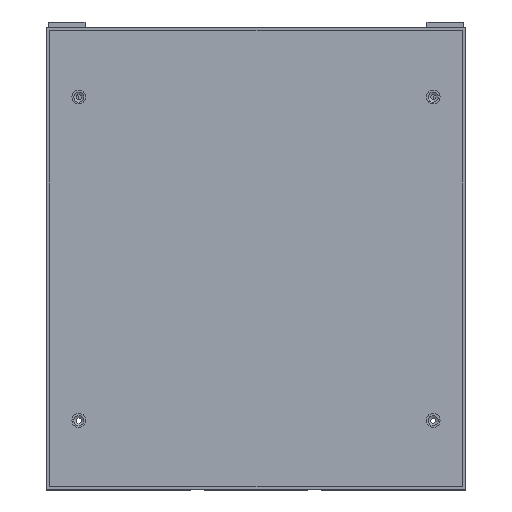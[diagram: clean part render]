
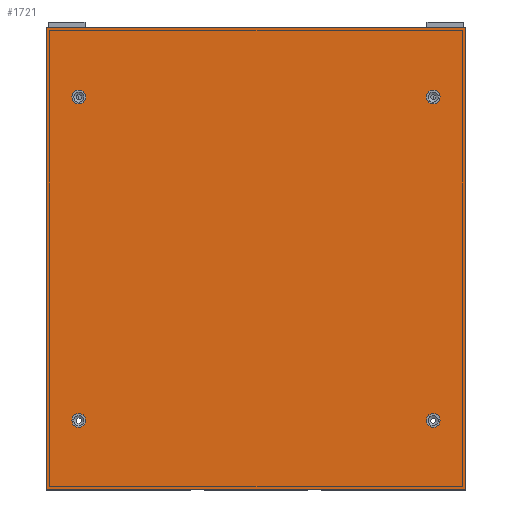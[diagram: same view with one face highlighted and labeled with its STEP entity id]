
A CAD part, top view. The second image highlights one B-rep face of the part: STEP entity #1721.
In plain terms, the highlighted planar face has unit normal (0, 0, 1).
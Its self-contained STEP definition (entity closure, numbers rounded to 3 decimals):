
#1721=ADVANCED_FACE('',(#2962,#2963,#2964,#2965,#2966),#2537,.F.);
#2537=PLANE('',#17333);
#2962=FACE_BOUND('',#3840,.T.);
#2963=FACE_BOUND('',#3841,.T.);
#2964=FACE_BOUND('',#3842,.T.);
#2965=FACE_BOUND('',#3843,.T.);
#2966=FACE_BOUND('',#3844,.T.);
#3840=EDGE_LOOP('',(#7067));
#3841=EDGE_LOOP('',(#7068));
#3842=EDGE_LOOP('',(#7069));
#3843=EDGE_LOOP('',(#7070));
#3844=EDGE_LOOP('',(#7071,#7072,#7073,#7074));
#5188=CIRCLE('',#17329,2.25);
#5189=CIRCLE('',#17330,2.25);
#5190=CIRCLE('',#17331,2.25);
#5191=CIRCLE('',#17332,2.25);
#7067=ORIENTED_EDGE('',*,*,#12974,.F.);
#7068=ORIENTED_EDGE('',*,*,#12975,.F.);
#7069=ORIENTED_EDGE('',*,*,#12976,.F.);
#7070=ORIENTED_EDGE('',*,*,#12977,.F.);
#7071=ORIENTED_EDGE('',*,*,#12649,.F.);
#7072=ORIENTED_EDGE('',*,*,#12978,.F.);
#7073=ORIENTED_EDGE('',*,*,#12568,.F.);
#7074=ORIENTED_EDGE('',*,*,#12979,.F.);
#10850=VERTEX_POINT('',#25507);
#10851=VERTEX_POINT('',#25509);
#10902=VERTEX_POINT('',#25659);
#10903=VERTEX_POINT('',#25661);
#11113=VERTEX_POINT('',#26319);
#11114=VERTEX_POINT('',#26321);
#11115=VERTEX_POINT('',#26323);
#11116=VERTEX_POINT('',#26325);
#12568=EDGE_CURVE('',#10850,#10851,#14633,.T.);
#12649=EDGE_CURVE('',#10902,#10903,#14696,.T.);
#12974=EDGE_CURVE('',#11113,#11113,#5188,.T.);
#12975=EDGE_CURVE('',#11114,#11114,#5189,.T.);
#12976=EDGE_CURVE('',#11115,#11115,#5190,.T.);
#12977=EDGE_CURVE('',#11116,#11116,#5191,.T.);
#12978=EDGE_CURVE('',#10851,#10902,#14898,.T.);
#12979=EDGE_CURVE('',#10903,#10850,#14899,.T.);
#14633=LINE('',#25508,#15829);
#14696=LINE('',#25660,#15892);
#14898=LINE('',#26326,#16094);
#14899=LINE('',#26327,#16095);
#15829=VECTOR('',#19388,1.);
#15892=VECTOR('',#19525,1.);
#16094=VECTOR('',#20227,1.);
#16095=VECTOR('',#20228,1.);
#17329=AXIS2_PLACEMENT_3D('',#26318,#20219,#20220);
#17330=AXIS2_PLACEMENT_3D('',#26320,#20221,#20222);
#17331=AXIS2_PLACEMENT_3D('',#26322,#20223,#20224);
#17332=AXIS2_PLACEMENT_3D('',#26324,#20225,#20226);
#17333=AXIS2_PLACEMENT_3D('',#26328,#20229,#20230);
#19388=DIRECTION('',(0.,1.,0.));
#19525=DIRECTION('',(0.,-1.,0.));
#20219=DIRECTION('',(0.,0.,1.));
#20220=DIRECTION('',(-1.,0.,0.));
#20221=DIRECTION('',(0.,0.,1.));
#20222=DIRECTION('',(1.,0.,0.));
#20223=DIRECTION('',(0.,0.,1.));
#20224=DIRECTION('',(-1.,0.,0.));
#20225=DIRECTION('',(0.,0.,1.));
#20226=DIRECTION('',(1.,0.,0.));
#20227=DIRECTION('',(1.,0.,0.));
#20228=DIRECTION('',(-1.,0.,0.));
#20229=DIRECTION('',(0.,0.,-1.));
#20230=DIRECTION('',(1.,0.,0.));
#25507=CARTESIAN_POINT('',(-68.,-78.,193.));
#25508=CARTESIAN_POINT('',(-68.,72.,193.));
#25509=CARTESIAN_POINT('',(-68.,72.,193.));
#25659=CARTESIAN_POINT('',(68.,72.,193.));
#25660=CARTESIAN_POINT('',(68.,72.,193.));
#25661=CARTESIAN_POINT('',(68.,-78.,193.));
#26318=CARTESIAN_POINT('',(-57.5,-55.5,193.));
#26319=CARTESIAN_POINT('',(-59.75,-55.5,193.));
#26320=CARTESIAN_POINT('',(57.5,-55.5,193.));
#26321=CARTESIAN_POINT('',(59.75,-55.5,193.));
#26322=CARTESIAN_POINT('',(57.5,49.5,193.));
#26323=CARTESIAN_POINT('',(55.25,49.5,193.));
#26324=CARTESIAN_POINT('',(-57.5,49.5,193.));
#26325=CARTESIAN_POINT('',(-55.25,49.5,193.));
#26326=CARTESIAN_POINT('',(68.,72.,193.));
#26327=CARTESIAN_POINT('',(68.,-78.,193.));
#26328=CARTESIAN_POINT('',(0.,-3.,193.));
